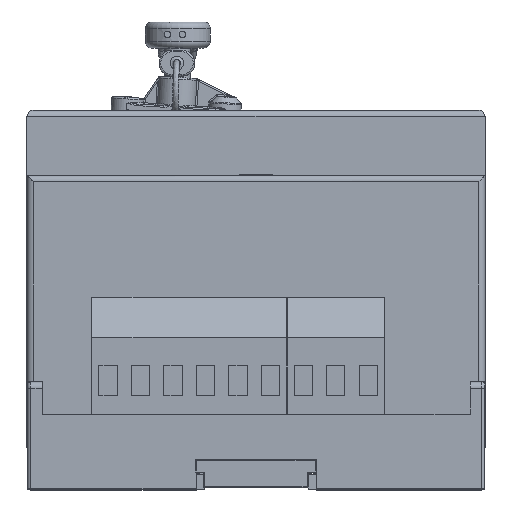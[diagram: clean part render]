
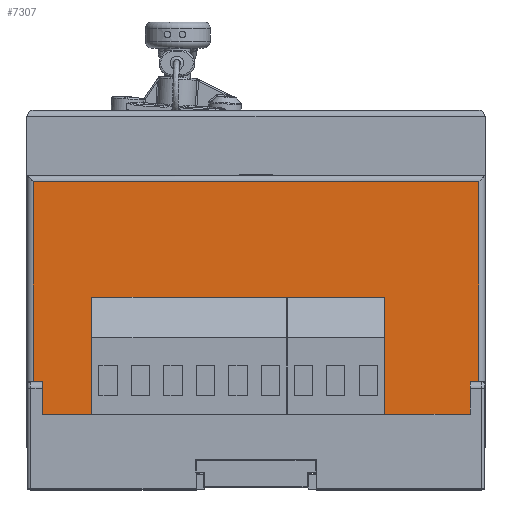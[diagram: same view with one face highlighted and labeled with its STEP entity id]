
A CAD part, top view. The second image highlights one B-rep face of the part: STEP entity #7307.
In plain terms, the highlighted planar face has unit normal (0, 0, 1).
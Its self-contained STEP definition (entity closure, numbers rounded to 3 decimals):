
#3259 = DIRECTION ( 'NONE',  ( -1., 0., 0. ) ) ;
#7307 = ADVANCED_FACE ( 'NONE', ( #301614 ), #285395, .F. ) ;
#7331 = DIRECTION ( 'NONE',  ( -1., 0., 0. ) ) ;
#7497 = CARTESIAN_POINT ( 'NONE',  ( 1.5, -9., 0. ) ) ;
#8551 = CARTESIAN_POINT ( 'NONE',  ( 67.5, -5., 0. ) ) ;
#13132 = LINE ( 'NONE', #303728, #68355 ) ;
#14011 = CARTESIAN_POINT ( 'NONE',  ( 1.5, -6.5, 0. ) ) ;
#14713 = ORIENTED_EDGE ( 'NONE', *, *, #218381, .F. ) ;
#17095 = CARTESIAN_POINT ( 'NONE',  ( 3., -5., 0. ) ) ;
#18136 = ORIENTED_EDGE ( 'NONE', *, *, #30207, .T. ) ;
#27421 = CARTESIAN_POINT ( 'NONE',  ( 1.5, -5., 0. ) ) ;
#28427 = DIRECTION ( 'NONE',  ( -1., 0., 0. ) ) ;
#30207 = EDGE_CURVE ( 'NONE', #191690, #234460, #284374, .T. ) ;
#36621 = ORIENTED_EDGE ( 'NONE', *, *, #273017, .T. ) ;
#48236 = DIRECTION ( 'NONE',  ( 0.707, -0.707, 0. ) ) ;
#51427 = LINE ( 'NONE', #7497, #106694 ) ;
#51499 = EDGE_CURVE ( 'NONE', #67243, #267780, #104086, .T. ) ;
#64591 = CARTESIAN_POINT ( 'NONE',  ( 69., -5., 0. ) ) ;
#65218 = LINE ( 'NONE', #148511, #253203 ) ;
#67243 = VERTEX_POINT ( 'NONE', #186583 ) ;
#68355 = VECTOR ( 'NONE', #280027, 1000. ) ;
#73114 = EDGE_CURVE ( 'NONE', #223530, #182123, #206327, .T. ) ;
#73244 = CARTESIAN_POINT ( 'NONE',  ( 0., 31.8, 0. ) ) ;
#76795 = CARTESIAN_POINT ( 'NONE',  ( 69., -6.5, 0. ) ) ;
#78931 = ORIENTED_EDGE ( 'NONE', *, *, #189223, .T. ) ;
#88511 = VERTEX_POINT ( 'NONE', #168906 ) ;
#90766 = EDGE_CURVE ( 'NONE', #246650, #88511, #13132, .T. ) ;
#96859 = VECTOR ( 'NONE', #155189, 1000. ) ;
#97992 = DIRECTION ( 'NONE',  ( 0., 1., 0. ) ) ;
#104086 = LINE ( 'NONE', #262789, #222157 ) ;
#104270 = LINE ( 'NONE', #14011, #96859 ) ;
#106694 = VECTOR ( 'NONE', #290649, 1000. ) ;
#110506 = CARTESIAN_POINT ( 'NONE',  ( 70.5, -9., 0. ) ) ;
#110627 = ORIENTED_EDGE ( 'NONE', *, *, #171963, .T. ) ;
#111894 = CARTESIAN_POINT ( 'NONE',  ( 1., 30.8, 0. ) ) ;
#112624 = LINE ( 'NONE', #27421, #293182 ) ;
#113614 = CARTESIAN_POINT ( 'NONE',  ( 69., -9., 0. ) ) ;
#113913 = ORIENTED_EDGE ( 'NONE', *, *, #73114, .T. ) ;
#123316 = VERTEX_POINT ( 'NONE', #17095 ) ;
#125463 = VERTEX_POINT ( 'NONE', #113614 ) ;
#134213 = DIRECTION ( 'NONE',  ( 1., 0., 0. ) ) ;
#137190 = EDGE_LOOP ( 'NONE', ( #18136, #110627, #200198, #36621, #14713, #113913, #271001, #203025, #149569, #78931 ) ) ;
#144457 = DIRECTION ( 'NONE',  ( 0., 0., -1. ) ) ;
#148511 = CARTESIAN_POINT ( 'NONE',  ( 0., 30.8, 0. ) ) ;
#149569 = ORIENTED_EDGE ( 'NONE', *, *, #51499, .T. ) ;
#150089 = EDGE_CURVE ( 'NONE', #182123, #125463, #197570, .T. ) ;
#155189 = DIRECTION ( 'NONE',  ( 0.707, 0.707, 0. ) ) ;
#156640 = LINE ( 'NONE', #110506, #211937 ) ;
#159136 = VECTOR ( 'NONE', #293954, 1000. ) ;
#168906 = CARTESIAN_POINT ( 'NONE',  ( 1.5, -9., 0. ) ) ;
#171963 = EDGE_CURVE ( 'NONE', #234460, #88511, #51427, .T. ) ;
#182123 = VERTEX_POINT ( 'NONE', #76795 ) ;
#186583 = CARTESIAN_POINT ( 'NONE',  ( 69.5, -9., 0. ) ) ;
#186589 = AXIS2_PLACEMENT_3D ( 'NONE', #73244, #144457, #3259 ) ;
#189223 = EDGE_CURVE ( 'NONE', #267780, #191690, #65218, .T. ) ;
#191690 = VERTEX_POINT ( 'NONE', #111894 ) ;
#197570 = LINE ( 'NONE', #64591, #252640 ) ;
#199416 = CARTESIAN_POINT ( 'NONE',  ( 1., 31.8, 0. ) ) ;
#200198 = ORIENTED_EDGE ( 'NONE', *, *, #90766, .F. ) ;
#203025 = ORIENTED_EDGE ( 'NONE', *, *, #247386, .T. ) ;
#206327 = LINE ( 'NONE', #305718, #213729 ) ;
#211937 = VECTOR ( 'NONE', #134213, 1000. ) ;
#213729 = VECTOR ( 'NONE', #48236, 1000. ) ;
#218381 = EDGE_CURVE ( 'NONE', #223530, #123316, #112624, .T. ) ;
#218393 = CARTESIAN_POINT ( 'NONE',  ( 1.5, -6.5, 0. ) ) ;
#222157 = VECTOR ( 'NONE', #97992, 1000. ) ;
#223530 = VERTEX_POINT ( 'NONE', #8551 ) ;
#234460 = VERTEX_POINT ( 'NONE', #243594 ) ;
#243594 = CARTESIAN_POINT ( 'NONE',  ( 1., -9., 0. ) ) ;
#246650 = VERTEX_POINT ( 'NONE', #218393 ) ;
#247386 = EDGE_CURVE ( 'NONE', #125463, #67243, #156640, .T. ) ;
#252640 = VECTOR ( 'NONE', #253086, 1000. ) ;
#253086 = DIRECTION ( 'NONE',  ( 0., -1., 0. ) ) ;
#253203 = VECTOR ( 'NONE', #7331, 1000. ) ;
#262789 = CARTESIAN_POINT ( 'NONE',  ( 69.5, 31.8, 0. ) ) ;
#267214 = CARTESIAN_POINT ( 'NONE',  ( 69.5, 30.8, 0. ) ) ;
#267780 = VERTEX_POINT ( 'NONE', #267214 ) ;
#271001 = ORIENTED_EDGE ( 'NONE', *, *, #150089, .T. ) ;
#273017 = EDGE_CURVE ( 'NONE', #246650, #123316, #104270, .T. ) ;
#280027 = DIRECTION ( 'NONE',  ( 0., -1., 0. ) ) ;
#284374 = LINE ( 'NONE', #199416, #159136 ) ;
#285395 = PLANE ( 'NONE',  #186589 ) ;
#290649 = DIRECTION ( 'NONE',  ( 1., 0., 0. ) ) ;
#293182 = VECTOR ( 'NONE', #28427, 1000. ) ;
#293954 = DIRECTION ( 'NONE',  ( 0., -1., 0. ) ) ;
#301614 = FACE_OUTER_BOUND ( 'NONE', #137190, .T. ) ;
#303728 = CARTESIAN_POINT ( 'NONE',  ( 1.5, -5., 0. ) ) ;
#305718 = CARTESIAN_POINT ( 'NONE',  ( 67.5, -5., 0. ) ) ;
